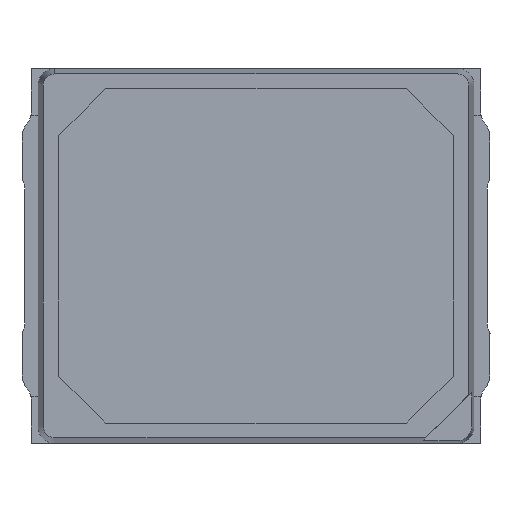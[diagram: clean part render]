
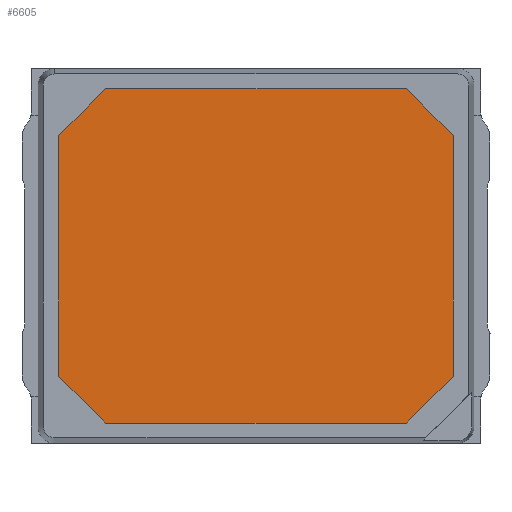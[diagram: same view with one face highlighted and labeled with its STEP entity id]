
A CAD part, top view. The second image highlights one B-rep face of the part: STEP entity #6605.
In plain terms, the highlighted planar face has unit normal (0, 0, 1).
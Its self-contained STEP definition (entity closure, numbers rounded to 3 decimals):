
#29 = DIRECTION ( 'NONE',  ( 0.707, -0.707, 0. ) ) ;
#134 = DIRECTION ( 'NONE',  ( 1., 0., 0. ) ) ;
#235 = CARTESIAN_POINT ( 'NONE',  ( -1.125, -1.25, 0.7 ) ) ;
#312 = CARTESIAN_POINT ( 'NONE',  ( 1.125, 1.25, 0.7 ) ) ;
#368 = ORIENTED_EDGE ( 'NONE', *, *, #4839, .T. ) ;
#442 = VECTOR ( 'NONE', #6496, 1000. ) ;
#590 = CARTESIAN_POINT ( 'NONE',  ( 1.475, -0.9, 0.7 ) ) ;
#661 = ORIENTED_EDGE ( 'NONE', *, *, #2741, .T. ) ;
#1023 = CARTESIAN_POINT ( 'NONE',  ( -1.125, 1.25, 0.7 ) ) ;
#1181 = EDGE_CURVE ( 'NONE', #6312, #7214, #7695, .T. ) ;
#1223 = DIRECTION ( 'NONE',  ( -1., 0., 0. ) ) ;
#1326 = DIRECTION ( 'NONE',  ( 0., 1., 0. ) ) ;
#1398 = VECTOR ( 'NONE', #1589, 1000. ) ;
#1589 = DIRECTION ( 'NONE',  ( -0.707, -0.707, 0. ) ) ;
#1708 = DIRECTION ( 'NONE',  ( 1., 0., 0. ) ) ;
#1776 = CARTESIAN_POINT ( 'NONE',  ( 1.475, 0.9, 0.7 ) ) ;
#1778 = CARTESIAN_POINT ( 'NONE',  ( -1.475, 0.9, 0.7 ) ) ;
#2204 = AXIS2_PLACEMENT_3D ( 'NONE', #3418, #7328, #134 ) ;
#2496 = VECTOR ( 'NONE', #1326, 1000. ) ;
#2561 = LINE ( 'NONE', #7116, #6908 ) ;
#2735 = EDGE_CURVE ( 'NONE', #7214, #5220, #5839, .T. ) ;
#2741 = EDGE_CURVE ( 'NONE', #4936, #5836, #4544, .T. ) ;
#2893 = ORIENTED_EDGE ( 'NONE', *, *, #6704, .T. ) ;
#2954 = LINE ( 'NONE', #7763, #442 ) ;
#3001 = LINE ( 'NONE', #4920, #6623 ) ;
#3107 = DIRECTION ( 'NONE',  ( 0.707, 0.707, 0. ) ) ;
#3176 = VECTOR ( 'NONE', #4314, 1000. ) ;
#3418 = CARTESIAN_POINT ( 'NONE',  ( 0., 0., 0.7 ) ) ;
#3524 = VERTEX_POINT ( 'NONE', #312 ) ;
#3565 = LINE ( 'NONE', #1023, #1398 ) ;
#3675 = CARTESIAN_POINT ( 'NONE',  ( 1.125, -1.25, 0.7 ) ) ;
#3699 = CARTESIAN_POINT ( 'NONE',  ( 1.125, -1.25, 0.7 ) ) ;
#3983 = CARTESIAN_POINT ( 'NONE',  ( -1.475, -0.9, 0.7 ) ) ;
#4036 = ORIENTED_EDGE ( 'NONE', *, *, #4233, .T. ) ;
#4075 = CARTESIAN_POINT ( 'NONE',  ( 1.475, -0.9, 0.7 ) ) ;
#4233 = EDGE_CURVE ( 'NONE', #6749, #6375, #3565, .T. ) ;
#4243 = CARTESIAN_POINT ( 'NONE',  ( -1.475, -0.9, 0.7 ) ) ;
#4268 = CARTESIAN_POINT ( 'NONE',  ( -1.125, 1.25, 0.7 ) ) ;
#4314 = DIRECTION ( 'NONE',  ( -0.707, 0.707, 0. ) ) ;
#4544 = LINE ( 'NONE', #3983, #4821 ) ;
#4680 = ORIENTED_EDGE ( 'NONE', *, *, #8404, .T. ) ;
#4692 = PLANE ( 'NONE',  #2204 ) ;
#4821 = VECTOR ( 'NONE', #29, 1000. ) ;
#4839 = EDGE_CURVE ( 'NONE', #5836, #6312, #3001, .T. ) ;
#4898 = ORIENTED_EDGE ( 'NONE', *, *, #1181, .T. ) ;
#4920 = CARTESIAN_POINT ( 'NONE',  ( -1.125, -1.25, 0.7 ) ) ;
#4936 = VERTEX_POINT ( 'NONE', #4243 ) ;
#5060 = EDGE_CURVE ( 'NONE', #3524, #6749, #2561, .T. ) ;
#5220 = VERTEX_POINT ( 'NONE', #1776 ) ;
#5722 = CARTESIAN_POINT ( 'NONE',  ( 1.475, 0.9, 0.7 ) ) ;
#5761 = EDGE_LOOP ( 'NONE', ( #4036, #4680, #661, #368, #4898, #7446, #2893, #6231 ) ) ;
#5836 = VERTEX_POINT ( 'NONE', #235 ) ;
#5839 = LINE ( 'NONE', #4075, #2496 ) ;
#6231 = ORIENTED_EDGE ( 'NONE', *, *, #5060, .T. ) ;
#6312 = VERTEX_POINT ( 'NONE', #3675 ) ;
#6375 = VERTEX_POINT ( 'NONE', #1778 ) ;
#6496 = DIRECTION ( 'NONE',  ( 0., -1., 0. ) ) ;
#6605 = ADVANCED_FACE ( 'NONE', ( #8092 ), #4692, .T. ) ;
#6623 = VECTOR ( 'NONE', #1708, 1000. ) ;
#6704 = EDGE_CURVE ( 'NONE', #5220, #3524, #6843, .T. ) ;
#6749 = VERTEX_POINT ( 'NONE', #4268 ) ;
#6843 = LINE ( 'NONE', #5722, #3176 ) ;
#6908 = VECTOR ( 'NONE', #1223, 1000. ) ;
#7116 = CARTESIAN_POINT ( 'NONE',  ( 1.125, 1.25, 0.7 ) ) ;
#7214 = VERTEX_POINT ( 'NONE', #590 ) ;
#7328 = DIRECTION ( 'NONE',  ( 0., 0., 1. ) ) ;
#7422 = VECTOR ( 'NONE', #3107, 1000. ) ;
#7446 = ORIENTED_EDGE ( 'NONE', *, *, #2735, .T. ) ;
#7695 = LINE ( 'NONE', #3699, #7422 ) ;
#7763 = CARTESIAN_POINT ( 'NONE',  ( -1.475, 0.9, 0.7 ) ) ;
#8092 = FACE_OUTER_BOUND ( 'NONE', #5761, .T. ) ;
#8404 = EDGE_CURVE ( 'NONE', #6375, #4936, #2954, .T. ) ;
